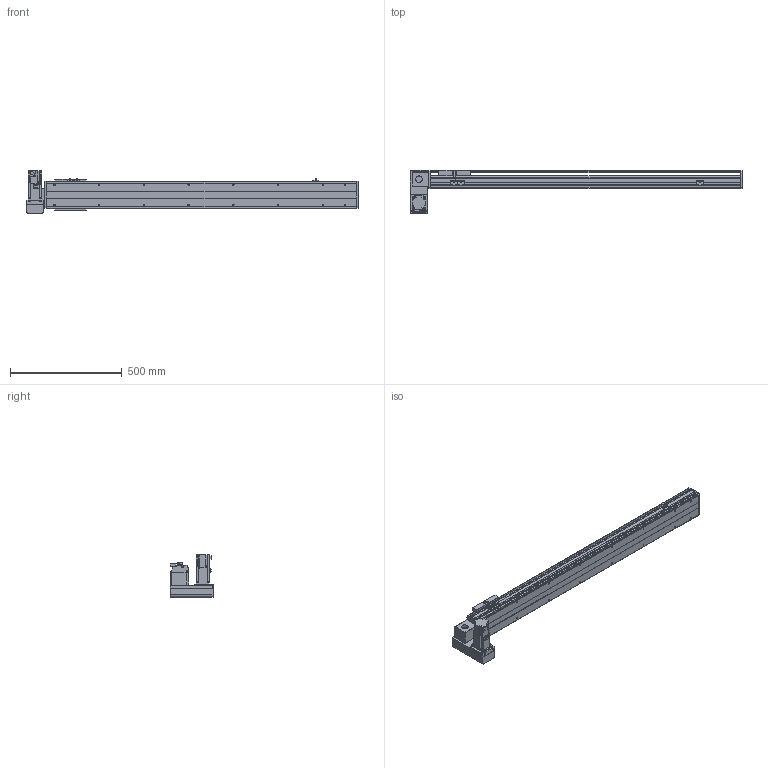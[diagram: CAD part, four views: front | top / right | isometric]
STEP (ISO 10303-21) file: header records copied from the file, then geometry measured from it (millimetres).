
FILE_DESCRIPTION(/* description */ ('STEP AP214'),/* implementation_level */ '2;1');
FILE_NAME(/* name */ 'PBS120-P40-S1100-LD-T40-C1-N(0)',/* time_stamp */ '2022-06-06T02:16:35+02:00',/* author */ ('License CC BY-ND 4.0'),/* organization */ ('CADENAS'),/* preprocessor_version */ 'ST-DEVELOPER v18.102',/* originating_system */ 'PARTsolutions',/* authorisation */ ' ');
FILE_SCHEMA (('AUTOMOTIVE_DESIGN {1 0 10303 214 3 1 1}'));
Length unit declared in the file: millimetre
Products named in the file (7): PBS120-P40-S1100-LD-T40-C1-N(0); PBS120_sensor; PBS120_plant; PBS120_sliser; T40-p1; PBS120T-LD_motors; PBS120-S1100()_body
Assembly tree (8 placements, depth 2):
  PBS120-P40-S1100-LD-T40-C1-N(0)
    PBS120_sensor  x3
    PBS120_plant
    PBS120_sliser
    T40-p1
    PBS120T-LD_motors
    PBS120-S1100()_body
Bounding box: 1486 x 196 x 189.7 mm (x, y, z)
Volume: 6286685.6 mm3; surface area: 1235637.1 mm2
Topology: 8 solids, 8 shells, 828 faces, 2156 edges, 1387 vertices
Faces by surface type: plane 549, cylinder 229, cone 48, torus 2
Full cylindrical faces by diameter (mm): 2.459 x6, 3.242 x4, 4 x2, 4.134 x4, 4.5 x10, 4.917 x20, 5.5 x11, 6 x2, 6.6 x1, 7 x2, 8.5 x4, 9 x4, 12 x1, 14 x1, 30 x2, 40 x1, 50 x2
Entity records: 21594 total; most frequent: DIRECTION 3740, CARTESIAN_POINT 3677, ORIENTED_EDGE 3502, EDGE_CURVE 1751, AXIS2_PLACEMENT_3D 1256, LINE 1228, VECTOR 1228, VERTEX_POINT 1193
